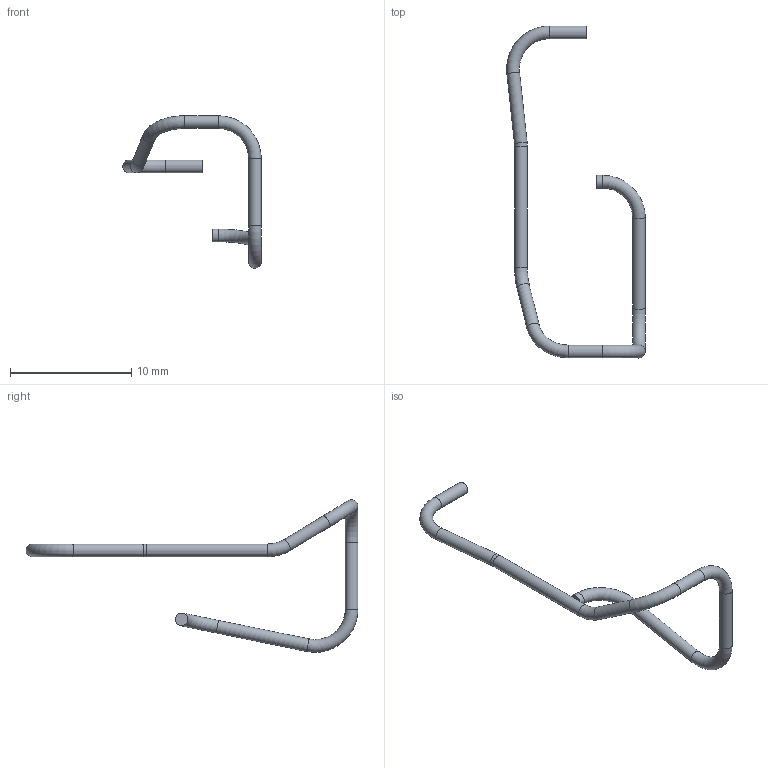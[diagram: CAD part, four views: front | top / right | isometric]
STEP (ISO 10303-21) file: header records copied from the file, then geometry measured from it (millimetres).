
FILE_DESCRIPTION(('Open CASCADE Model'),'2;1');
FILE_NAME('Open CASCADE Shape Model','2026-09-15T14:26:47',('Author'),( 'Open CASCADE'),'Open CASCADE STEP processor 7.7','Open CASCADE 7.7' ,'Unknown');
FILE_SCHEMA(('AUTOMOTIVE_DESIGN { 1 0 10303 214 1 1 1 1 }'));
Length unit declared in the file: millimetre
Products named in the file (1): J9_PIN_5_CONTROL_LEAD_OD1p05_R3
Bounding box: 11.42 x 27.34 x 12.57 mm (x, y, z)
Volume: 56.3 mm3; surface area: 216.3 mm2
Topology: 1 solids, 1 shells, 17 faces, 31 edges, 16 vertices
Faces by surface type: cylinder 8, torus 7, plane 2
Full cylindrical faces by diameter (mm): 1.05 x8
Entity records: 800 total; most frequent: CARTESIAN_POINT 156, DIRECTION 123, ORIENTED_EDGE 62, PCURVE 62, DEFINITIONAL_REPRESENTATION 62, AXIS2_PLACEMENT_3D 41, LINE 39, VECTOR 39
